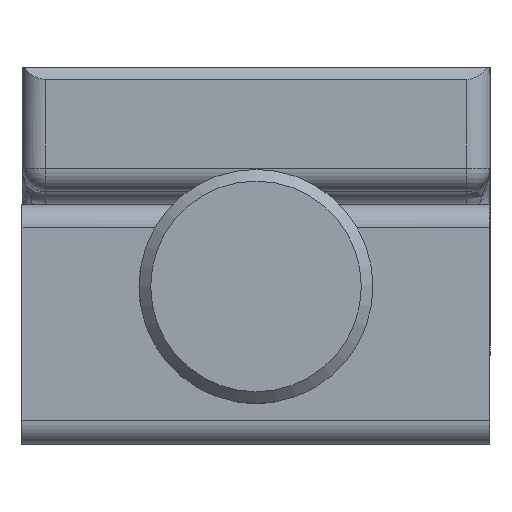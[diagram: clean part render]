
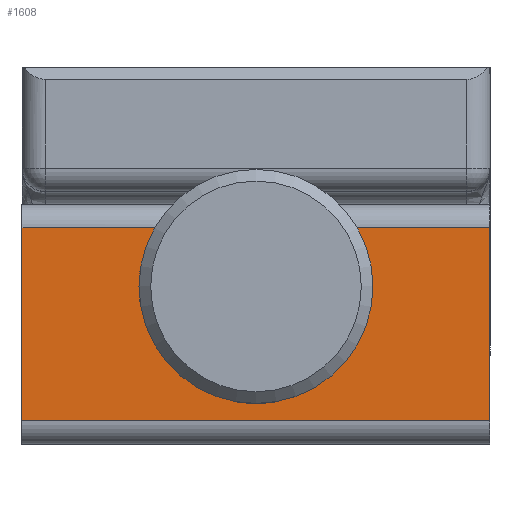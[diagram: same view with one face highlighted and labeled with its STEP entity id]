
A CAD part, front view. The second image highlights one B-rep face of the part: STEP entity #1608.
In plain terms, the highlighted planar face has unit normal (0, -1, 0).
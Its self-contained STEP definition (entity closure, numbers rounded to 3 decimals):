
#1208=CARTESIAN_POINT('',(-1.601,-94.05,-13.7));
#1209=VERTEX_POINT('',#1208);
#1210=CARTESIAN_POINT('',(1.601,-94.05,-13.7));
#1211=VERTEX_POINT('',#1210);
#1225=CARTESIAN_POINT('',(0.,-94.05,-18.7));
#1226=DIRECTION('',(0.0,1.0,0.0));
#1227=DIRECTION('',(1.0,0.0,0.0));
#1228=AXIS2_PLACEMENT_3D('',#1225,#1226,#1227);
#1229=CIRCLE('',#1228,5.25);
#1230=EDGE_CURVE('',#1211,#1209,#1229,.T.);
#1321=CARTESIAN_POINT('',(20.,-94.05,-13.7));
#1322=VERTEX_POINT('',#1321);
#1323=CARTESIAN_POINT('',(1.601,-94.05,-13.7));
#1324=DIRECTION('',(1.0,0.0,0.0));
#1325=VECTOR('',#1324,18.399);
#1326=LINE('',#1323,#1325);
#1327=EDGE_CURVE('',#1211,#1322,#1326,.T.);
#1337=CARTESIAN_POINT('',(-20.,-94.05,-13.7));
#1338=VERTEX_POINT('',#1337);
#1346=CARTESIAN_POINT('',(-20.,-94.05,-13.7));
#1347=DIRECTION('',(1.0,0.0,0.0));
#1348=VECTOR('',#1347,18.399);
#1349=LINE('',#1346,#1348);
#1350=EDGE_CURVE('',#1338,#1209,#1349,.T.);
#1403=CARTESIAN_POINT('',(-20.,-94.05,-30.2));
#1404=VERTEX_POINT('',#1403);
#1412=CARTESIAN_POINT('',(-20.,-94.05,-13.7));
#1413=DIRECTION('',(0.0,0.0,-1.0));
#1414=VECTOR('',#1413,16.5);
#1415=LINE('',#1412,#1414);
#1416=EDGE_CURVE('',#1338,#1404,#1415,.T.);
#1570=CARTESIAN_POINT('',(20.,-94.05,-30.2));
#1571=VERTEX_POINT('',#1570);
#1579=CARTESIAN_POINT('',(-20.,-94.05,-30.2));
#1580=DIRECTION('',(1.0,0.0,0.0));
#1581=VECTOR('',#1580,40.0);
#1582=LINE('',#1579,#1581);
#1583=EDGE_CURVE('',#1404,#1571,#1582,.T.);
#1590=CARTESIAN_POINT('',(0.,-94.05,-30.2));
#1591=DIRECTION('',(0.0,-1.0,0.0));
#1592=DIRECTION('',(0.0,0.0,-1.0));
#1593=AXIS2_PLACEMENT_3D('',#1590,#1591,#1592);
#1594=PLANE('',#1593);
#1595=ORIENTED_EDGE('',*,*,#1230,.T.);
#1596=ORIENTED_EDGE('',*,*,#1350,.F.);
#1597=ORIENTED_EDGE('',*,*,#1416,.T.);
#1598=ORIENTED_EDGE('',*,*,#1583,.T.);
#1599=CARTESIAN_POINT('',(20.,-94.05,-30.2));
#1600=DIRECTION('',(0.0,0.0,1.0));
#1601=VECTOR('',#1600,16.5);
#1602=LINE('',#1599,#1601);
#1603=EDGE_CURVE('',#1571,#1322,#1602,.T.);
#1604=ORIENTED_EDGE('',*,*,#1603,.T.);
#1605=ORIENTED_EDGE('',*,*,#1327,.F.);
#1606=EDGE_LOOP('',(#1595,#1596,#1597,#1598,#1604,#1605));
#1607=FACE_OUTER_BOUND('',#1606,.T.);
#1608=ADVANCED_FACE('',(#1607),#1594,.T.);
